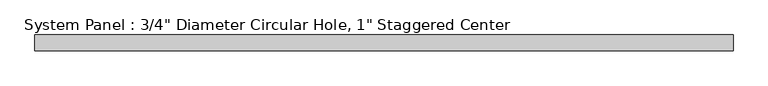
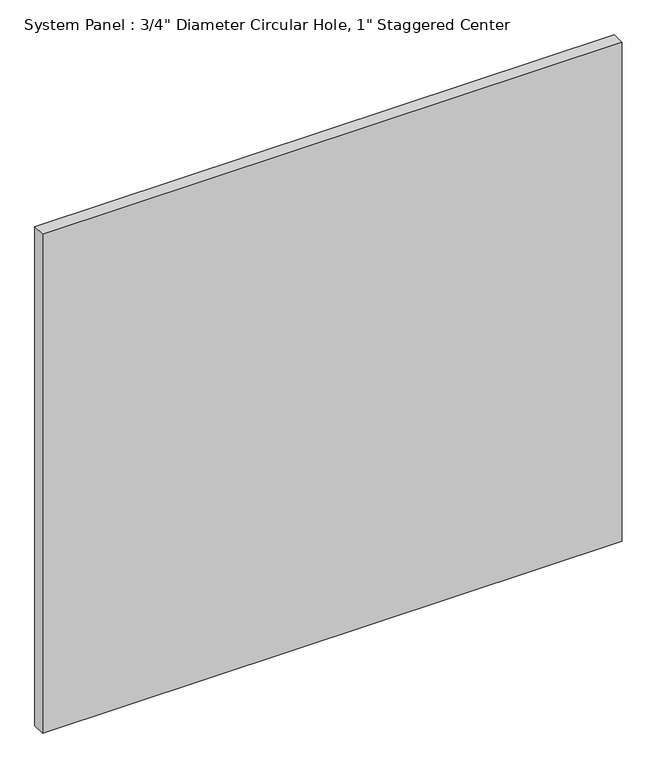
"""IFC4 building model written with IfcOpenShell, lengths in millimetres: plate geometry."""

from ifc_helpers import new_model, si_unit, origin, origin_with_axes, place, context, project, spatial, polyline, outline, extrude, source, transform, mapped, element, save


def plate_9b3d0739(model_context):
    return source(origin(), model_context, "Body", "SweptSolid", [
        extrude(outline(polyline([(2200.0, -50.0), (-2200.0, -50.0), (-2200.0, 50.0), (2200.0, 50.0), (2200.0, -50.0)])), origin_with_axes(), (0.0, 0.0, 1.0), 4000.0),
    ])


if __name__ == "__main__":
    model = new_model("IFC4")
    model_context = context("Model", 3, world=origin())
    ifc_project = project(units=[si_unit("LENGTHUNIT", "METRE", prefix="MILLI")], contexts=[model_context])
    site = spatial("IfcSite", under=ifc_project)
    building = spatial("IfcBuilding", under=site)
    placement = place(None, origin())
    plate_shape = plate_9b3d0739(model_context)
    element("IfcPlate", 1, ObjectType="System Panel : 3/4\" Diameter Circular Hole, 1\" Staggered Center", at=placement, inside=building, context=model_context, shape_type="MappedRepresentation", body=[
        mapped(plate_shape, transform((0.0, 0.0, 0.0), x_axis=(1.0, 0.0, 0.0), y_axis=(0.0, 1.0, 0.0), z_axis=(0.0, 0.0, 1.0))),
    ])
    save(model, "model.ifc")
